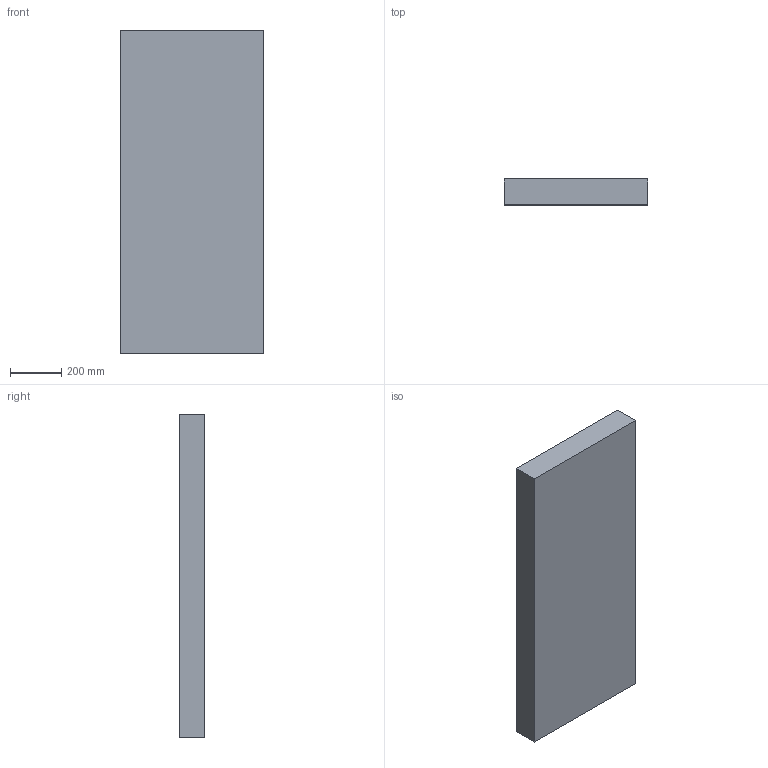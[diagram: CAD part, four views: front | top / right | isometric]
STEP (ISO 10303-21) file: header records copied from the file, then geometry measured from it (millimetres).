
FILE_DESCRIPTION(/* description */ (''),/* implementation_level */ '2;1');
FILE_NAME(/* name */ 'C:/Users/LukasGröber/GMS Cloud/Groeber Mannheim Lichtwerke - Dokumente/Marketing/Produkte/3D Daten/Wandleuchte Eifel im Herbst/Wandleuchte Eifel im Herbst 126x56.step',/* time_stamp */ '2022-07-11T09:48:08+02:00',/* author */ (''),/* organization */ (''),/* preprocessor_version */ 'ST-DEVELOPER v19',/* originating_system */ 'Autodesk Translation Framework v11.7.0.108',/* authorisation */ '');
FILE_SCHEMA (('AUTOMOTIVE_DESIGN { 1 0 10303 214 3 1 1 }'));
Length unit declared in the file: millimetre
Products named in the file (1): Wandleuchte Eifel im Herbst 126x56
Bounding box: 560 x 100 x 1260 mm (x, y, z)
Volume: 70560000 mm3; surface area: 1775200 mm2
Topology: 1 solids, 1 shells, 6 faces, 12 edges, 8 vertices
Faces by surface type: plane 6
Entity records: 204 total; most frequent: CARTESIAN_POINT 27, DIRECTION 26, ORIENTED_EDGE 24, LINE 12, VECTOR 12, EDGE_CURVE 12, VERTEX_POINT 8, AXIS2_PLACEMENT_3D 7
